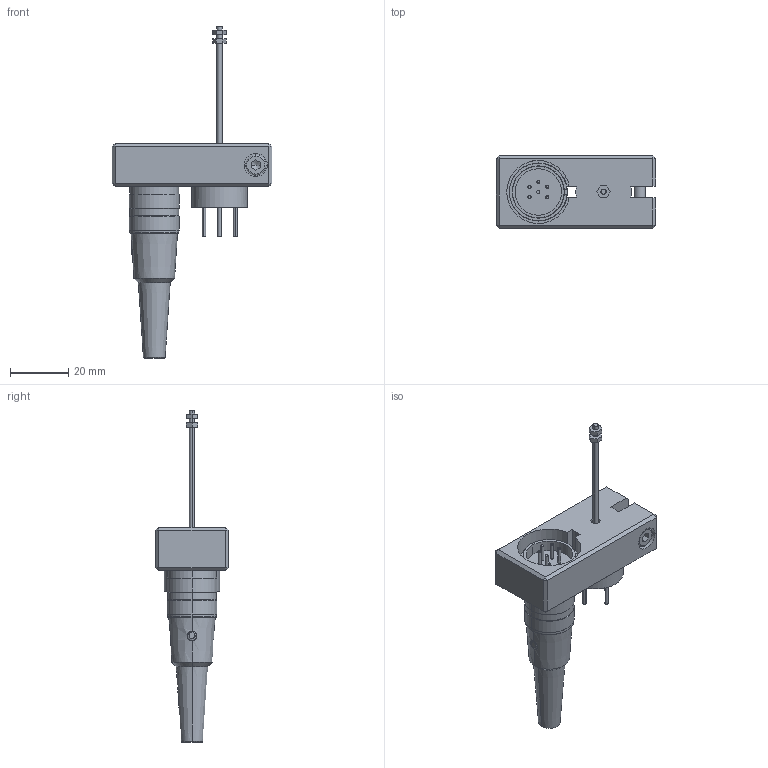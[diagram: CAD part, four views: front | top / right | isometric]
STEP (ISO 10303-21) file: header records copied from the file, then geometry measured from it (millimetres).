
FILE_DESCRIPTION(('STEP AP203'),'1');
FILE_NAME('C:/TPO v2/SharedFS/Outgoing/burster_87240-000-v001_1p54hzcw1u7g2hkz0nicyfy60.stp','2013-08-26T20:03:42',('TraceParts'),('TraceParts S.A.'),'XStep 1.0',' ',' ');
FILE_SCHEMA(('CONFIG_CONTROL_DESIGN'));
Length unit declared in the file: millimetre
Products named in the file (3): 1; 2; 3
Bounding box: 55 x 25 x 114.4 mm (x, y, z)
Volume: 25956.5 mm3; surface area: 13005.2 mm2
Topology: 3 solids, 11 shells, 274 faces, 623 edges, 391 vertices
Faces by surface type: plane 105, cylinder 100, cone 65, torus 2, bspline 2
Entity records: 8129 total; most frequent: CARTESIAN_POINT 1635, DIRECTION 1430, ORIENTED_EDGE 1238, EDGE_CURVE 619, AXIS2_PLACEMENT_3D 561, VERTEX_POINT 391, EDGE_LOOP 318, LINE 308
